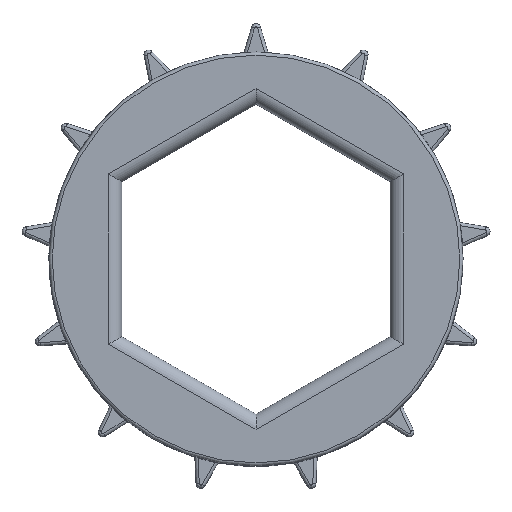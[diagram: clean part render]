
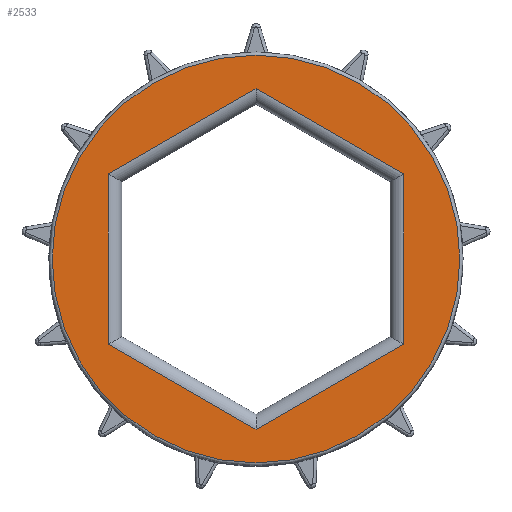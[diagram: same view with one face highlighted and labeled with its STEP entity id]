
A CAD part, top view. The second image highlights one B-rep face of the part: STEP entity #2533.
In plain terms, the highlighted planar face has unit normal (0, 0, 1).
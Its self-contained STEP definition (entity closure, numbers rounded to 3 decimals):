
#98=FACE_BOUND('',#468,.T.);
#126=CIRCLE('',#2749,7.62);
#127=CIRCLE('',#2750,7.62);
#251=PLANE('',#2748);
#310=FACE_OUTER_BOUND('',#467,.T.);
#467=EDGE_LOOP('',(#1762,#1763));
#468=EDGE_LOOP('',(#1764,#1765,#1766,#1767,#1768,#1769));
#664=LINE('',#3910,#852);
#665=LINE('',#3915,#853);
#666=LINE('',#3920,#854);
#669=LINE('',#3929,#857);
#670=LINE('',#3932,#858);
#672=LINE('',#3935,#860);
#852=VECTOR('',#3116,10.);
#853=VECTOR('',#3123,10.);
#854=VECTOR('',#3128,10.);
#857=VECTOR('',#3137,10.);
#858=VECTOR('',#3142,10.);
#860=VECTOR('',#3146,10.);
#1064=VERTEX_POINT('',#3908);
#1065=VERTEX_POINT('',#3909);
#1066=VERTEX_POINT('',#3914);
#1067=VERTEX_POINT('',#3918);
#1068=VERTEX_POINT('',#3919);
#1071=VERTEX_POINT('',#3928);
#1072=VERTEX_POINT('',#3939);
#1073=VERTEX_POINT('',#3940);
#1318=EDGE_CURVE('',#1064,#1065,#664,.T.);
#1321=EDGE_CURVE('',#1065,#1066,#665,.T.);
#1323=EDGE_CURVE('',#1067,#1068,#666,.T.);
#1328=EDGE_CURVE('',#1068,#1071,#669,.T.);
#1330=EDGE_CURVE('',#1066,#1067,#670,.T.);
#1332=EDGE_CURVE('',#1071,#1064,#672,.T.);
#1334=EDGE_CURVE('',#1072,#1073,#126,.T.);
#1335=EDGE_CURVE('',#1073,#1072,#127,.T.);
#1762=ORIENTED_EDGE('',*,*,#1334,.F.);
#1763=ORIENTED_EDGE('',*,*,#1335,.F.);
#1764=ORIENTED_EDGE('',*,*,#1323,.F.);
#1765=ORIENTED_EDGE('',*,*,#1330,.F.);
#1766=ORIENTED_EDGE('',*,*,#1321,.F.);
#1767=ORIENTED_EDGE('',*,*,#1318,.F.);
#1768=ORIENTED_EDGE('',*,*,#1332,.F.);
#1769=ORIENTED_EDGE('',*,*,#1328,.F.);
#2533=ADVANCED_FACE('',(#310,#98),#251,.T.);
#2748=AXIS2_PLACEMENT_3D('',#3938,#3150,#3151);
#2749=AXIS2_PLACEMENT_3D('',#3941,#3152,#3153);
#2750=AXIS2_PLACEMENT_3D('',#3942,#3154,#3155);
#3116=DIRECTION('',(0.866,0.5,0.));
#3123=DIRECTION('',(0.,1.,0.));
#3128=DIRECTION('',(-0.866,-0.5,0.));
#3137=DIRECTION('',(0.,-1.,0.));
#3142=DIRECTION('',(-0.866,0.5,0.));
#3146=DIRECTION('',(0.866,-0.5,0.));
#3150=DIRECTION('center_axis',(0.,0.,1.));
#3151=DIRECTION('ref_axis',(1.,0.,0.));
#3152=DIRECTION('center_axis',(0.,0.,-1.));
#3153=DIRECTION('ref_axis',(-1.,0.,0.));
#3154=DIRECTION('center_axis',(0.,0.,-1.));
#3155=DIRECTION('ref_axis',(-1.,0.,0.));
#3908=CARTESIAN_POINT('',(-3.87,-6.368,3.688));
#3909=CARTESIAN_POINT('',(1.645,-3.184,3.688));
#3910=CARTESIAN_POINT('',(0.141,-4.052,3.688));
#3914=CARTESIAN_POINT('',(1.645,3.184,3.688));
#3915=CARTESIAN_POINT('',(1.645,1.448,3.688));
#3918=CARTESIAN_POINT('',(-3.87,6.368,3.688));
#3919=CARTESIAN_POINT('',(-9.385,3.184,3.688));
#3920=CARTESIAN_POINT('',(-7.881,4.052,3.688));
#3928=CARTESIAN_POINT('',(-9.385,-3.184,3.688));
#3929=CARTESIAN_POINT('',(-9.385,-1.448,3.688));
#3932=CARTESIAN_POINT('',(-2.366,5.5,3.688));
#3935=CARTESIAN_POINT('',(-5.374,-5.5,3.688));
#3938=CARTESIAN_POINT('Origin',(-3.87,0.,3.688));
#3939=CARTESIAN_POINT('',(3.75,0.,3.688));
#3940=CARTESIAN_POINT('',(-11.49,0.,3.688));
#3941=CARTESIAN_POINT('Origin',(-3.87,0.,3.688));
#3942=CARTESIAN_POINT('Origin',(-3.87,0.,3.688));
